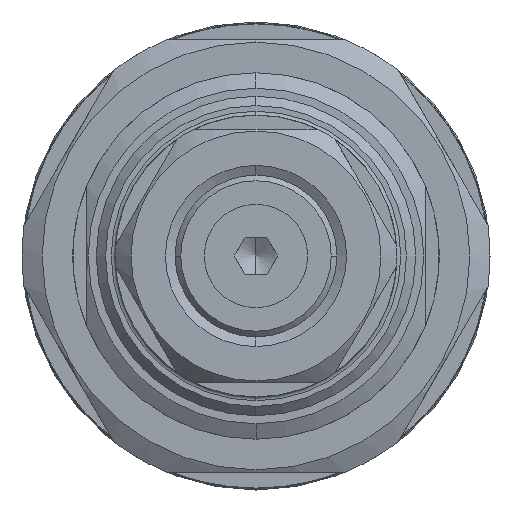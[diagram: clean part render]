
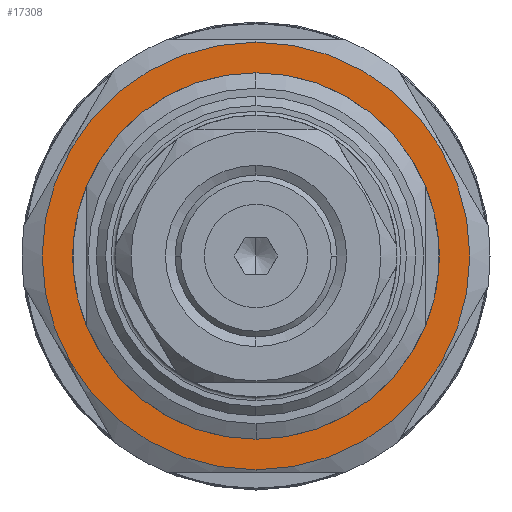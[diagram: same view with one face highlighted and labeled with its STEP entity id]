
A CAD part, left-side view. The second image highlights one B-rep face of the part: STEP entity #17308.
In plain terms, the highlighted planar face has unit normal (-1, 0, 0).
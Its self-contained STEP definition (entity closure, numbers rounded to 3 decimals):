
#508 = EDGE_LOOP ( 'NONE', ( #1189, #13702 ) ) ;
#983 = CIRCLE ( 'NONE', #6272, 19.5 ) ;
#1189 = ORIENTED_EDGE ( 'NONE', *, *, #5880, .T. ) ;
#1216 = CARTESIAN_POINT ( 'NONE',  ( 0., 0., 0. ) ) ;
#2764 = DIRECTION ( 'NONE',  ( -1., 0., 0. ) ) ;
#2774 = CARTESIAN_POINT ( 'NONE',  ( 0., 0., 0. ) ) ;
#4115 = EDGE_CURVE ( 'NONE', #6742, #19296, #11823, .T. ) ;
#4126 = CARTESIAN_POINT ( 'NONE',  ( 0., 0., 0. ) ) ;
#4998 = CIRCLE ( 'NONE', #16977, 22.75 ) ;
#5772 = DIRECTION ( 'NONE',  ( 1., 0., 0. ) ) ;
#5859 = CARTESIAN_POINT ( 'NONE',  ( 0., 0., -19.5 ) ) ;
#5880 = EDGE_CURVE ( 'NONE', #19296, #6742, #983, .T. ) ;
#6272 = AXIS2_PLACEMENT_3D ( 'NONE', #2774, #7767, #13916 ) ;
#6742 = VERTEX_POINT ( 'NONE', #19081 ) ;
#6796 = AXIS2_PLACEMENT_3D ( 'NONE', #4126, #5772, #15151 ) ;
#7122 = CARTESIAN_POINT ( 'NONE',  ( 0., 0., -22.75 ) ) ;
#7717 = EDGE_CURVE ( 'NONE', #11441, #11586, #8142, .T. ) ;
#7767 = DIRECTION ( 'NONE',  ( 1., 0., 0. ) ) ;
#8142 = CIRCLE ( 'NONE', #12822, 22.75 ) ;
#8271 = CARTESIAN_POINT ( 'NONE',  ( 0., 0., 0. ) ) ;
#10332 = EDGE_LOOP ( 'NONE', ( #10430, #13446 ) ) ;
#10430 = ORIENTED_EDGE ( 'NONE', *, *, #14867, .T. ) ;
#11119 = CARTESIAN_POINT ( 'NONE',  ( 0., 0., 22.75 ) ) ;
#11238 = CARTESIAN_POINT ( 'NONE',  ( 0., 0., 0. ) ) ;
#11414 = DIRECTION ( 'NONE',  ( 0., 0., -1. ) ) ;
#11441 = VERTEX_POINT ( 'NONE', #11119 ) ;
#11586 = VERTEX_POINT ( 'NONE', #7122 ) ;
#11823 = CIRCLE ( 'NONE', #6796, 19.5 ) ;
#12699 = DIRECTION ( 'NONE',  ( -1., 0., 0. ) ) ;
#12822 = AXIS2_PLACEMENT_3D ( 'NONE', #1216, #2764, #20473 ) ;
#13446 = ORIENTED_EDGE ( 'NONE', *, *, #7717, .T. ) ;
#13702 = ORIENTED_EDGE ( 'NONE', *, *, #4115, .T. ) ;
#13916 = DIRECTION ( 'NONE',  ( 0., 0., -1. ) ) ;
#14742 = FACE_OUTER_BOUND ( 'NONE', #10332, .T. ) ;
#14867 = EDGE_CURVE ( 'NONE', #11586, #11441, #4998, .T. ) ;
#15151 = DIRECTION ( 'NONE',  ( 0., 0., -1. ) ) ;
#16392 = DIRECTION ( 'NONE',  ( 1., 0., 0. ) ) ;
#16977 = AXIS2_PLACEMENT_3D ( 'NONE', #11238, #12699, #17580 ) ;
#17308 = ADVANCED_FACE ( 'NONE', ( #17857, #14742 ), #19627, .F. ) ;
#17580 = DIRECTION ( 'NONE',  ( 0., 0., 1. ) ) ;
#17857 = FACE_BOUND ( 'NONE', #508, .T. ) ;
#19081 = CARTESIAN_POINT ( 'NONE',  ( 0., 0., 19.5 ) ) ;
#19296 = VERTEX_POINT ( 'NONE', #5859 ) ;
#19627 = PLANE ( 'NONE',  #20023 ) ;
#20023 = AXIS2_PLACEMENT_3D ( 'NONE', #8271, #16392, #11414 ) ;
#20473 = DIRECTION ( 'NONE',  ( 0., 0., 1. ) ) ;
